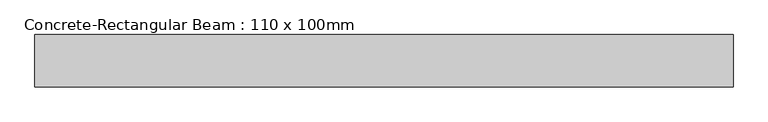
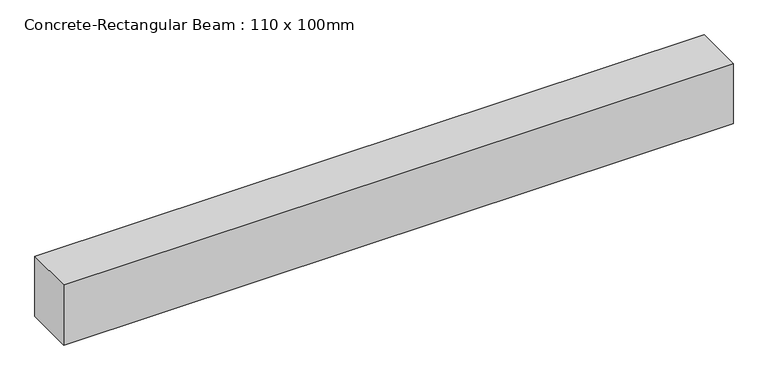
"""IFC4 building model written with IfcOpenShell, lengths in millimetres: beam geometry, Concrete-Rectangular Beam : 110 x 100mm."""

import ifcopenshell
import ifcopenshell.guid

model = None  # the IFC model being written
_history = None  # IfcOwnerHistory: only IFC2X3 demands one
_inside = {}  # id of a spatial element -> (the spatial element, [elements in it])
_under = {}  # id of a project, library or spatial element -> (it, [spatial elements below it])
_declared = {}  # id of a project -> (the project, [libraries it declares])
_typed = {}  # id of a type object -> (the type object, [elements of that type])
_made_of = {}  # id of a material, layer set ... -> (it, [elements and type objects made of it])


def new_model(schema):
    """Start an empty IFC model of exactly this schema.

    Asked for "IFC4X3", IfcOpenShell would pick the latest addendum, in which some entities
    have other attributes; the version numbers below select the first issue.
    IFC2X3 requires an IfcOwnerHistory on every rooted entity: one is made here for all.
    """
    global model, _history
    if schema == "IFC4X3":
        model = ifcopenshell.file(schema_version=(4, 3, 0, 0))
    else:
        model = ifcopenshell.file(schema=schema)
    _inside.clear()
    _under.clear()
    _declared.clear()
    _typed.clear()
    _made_of.clear()
    _history = None
    if model.schema == "IFC2X3":
        org = make("IfcOrganization", Name="unknown")
        user = make(
            "IfcPersonAndOrganization",
            ThePerson=make("IfcPerson", FamilyName="unknown"),
            TheOrganization=org,
        )
        app = make(
            "IfcApplication",
            ApplicationDeveloper=org,
            Version="unknown",
            ApplicationFullName="unknown",
            ApplicationIdentifier="unknown",
        )
        _history = make(
            "IfcOwnerHistory",
            OwningUser=user,
            OwningApplication=app,
            ChangeAction="ADDED",
            CreationDate=0,
        )
    return model


def make(cls, **values):
    """One entity of the class cls with the attributes given. An attribute that is None is left unset."""
    return model.create_entity(
        cls, **{name: value for name, value in values.items() if value is not None}
    )


def rooted(cls, **values):
    """An entity with a GlobalId (a new one), such as an element, a storey or a relation."""
    return make(cls, GlobalId=ifcopenshell.guid.new(), OwnerHistory=_history, **values)


def si_unit(unit_type, name, prefix=None):
    """IfcSIUnit, for example si_unit("LENGTHUNIT", "METRE", prefix="MILLI")."""
    return make("IfcSIUnit", UnitType=unit_type, Prefix=prefix, Name=name)


def assignment(units):
    """IfcUnitAssignment: the units of a project."""
    return None if units is None else make("IfcUnitAssignment", Units=units)


def point(xyz):
    """IfcCartesianPoint."""
    return None if xyz is None else make("IfcCartesianPoint", Coordinates=xyz)


def direction(xyz):
    """IfcDirection."""
    return None if xyz is None else make("IfcDirection", DirectionRatios=xyz)


def frame(location, z_axis=None, x_axis=None):
    """IfcAxis2Placement3D, a coordinate frame: its origin and axes. An axis left out is left unset."""
    return make(
        "IfcAxis2Placement3D",
        Location=point(location),
        Axis=direction(z_axis),
        RefDirection=direction(x_axis),
    )


def origin():
    """The frame at (0, 0, 0) with its axes left unset."""
    return frame((0.0, 0.0, 0.0))


def place(relative_to, where):
    """IfcLocalPlacement: puts the frame where relative to a parent placement (None: the world)."""
    return make(
        "IfcLocalPlacement", PlacementRelTo=relative_to, RelativePlacement=where
    )


def context(
    kind, dimensions, precision=None, world=None, true_north=None, identifier=None
):
    """IfcGeometricRepresentationContext, for example the 3D "Model" context."""
    return make(
        "IfcGeometricRepresentationContext",
        ContextIdentifier=identifier,
        ContextType=kind,
        CoordinateSpaceDimension=dimensions,
        Precision=precision,
        WorldCoordinateSystem=world,
        TrueNorth=true_north,
    )


def project(units=None, contexts=None):
    """IfcProject with its units and contexts."""
    return rooted(
        "IfcProject",
        Name="project",
        RepresentationContexts=contexts,
        UnitsInContext=assignment(units),
    )


def spatial(cls, under=None, at=None, **own):
    """A site, building, storey or space (cls), placed at a placement, below another one or the project."""
    s = rooted(cls, ObjectPlacement=at, **own)
    if under is not None:
        _under.setdefault(under.id(), (under, []))[1].append(s)
    return s


def polyline(points):
    """IfcPolyline through the points."""
    return make("IfcPolyline", Points=[point(p) for p in points])


def outline(outer, holes=None, kind="AREA"):
    """IfcArbitraryClosedProfileDef: a profile drawn as a closed curve; with holes, ...WithVoids."""
    if holes is None:
        return make("IfcArbitraryClosedProfileDef", ProfileType=kind, OuterCurve=outer)
    return make(
        "IfcArbitraryProfileDefWithVoids",
        ProfileType=kind,
        OuterCurve=outer,
        InnerCurves=holes,
    )


def extrude(swept, where, along, depth):
    """IfcExtrudedAreaSolid: the profile swept, set in the frame where, extruded along a direction by depth."""
    return make(
        "IfcExtrudedAreaSolid",
        SweptArea=swept,
        Position=where,
        ExtrudedDirection=direction(along),
        Depth=depth,
    )


def shape(context_of_items, identifier, shape_type, items):
    """IfcShapeRepresentation: the items that make up one representation, for example the "Body"."""
    return make(
        "IfcShapeRepresentation",
        ContextOfItems=context_of_items,
        RepresentationIdentifier=identifier,
        RepresentationType=shape_type,
        Items=items,
    )


def source(mapping_origin, context_of_items, identifier, shape_type, items):
    """IfcRepresentationMap: a shape defined once, which mapped items show again and again."""
    return make(
        "IfcRepresentationMap",
        MappingOrigin=mapping_origin,
        MappedRepresentation=shape(context_of_items, identifier, shape_type, items),
    )


def transform(
    local_origin,
    x_axis=None,
    y_axis=None,
    z_axis=None,
    scale=None,
    scale2=None,
    scale3=None,
    uniform=True,
):
    """IfcCartesianTransformationOperator3D, or its non-uniform kind. x_axis, y_axis, z_axis: its Axis1, 2, 3."""
    if uniform:
        return make(
            "IfcCartesianTransformationOperator3D",
            Axis1=direction(x_axis),
            Axis2=direction(y_axis),
            LocalOrigin=point(local_origin),
            Scale=scale,
            Axis3=direction(z_axis),
        )
    return make(
        "IfcCartesianTransformationOperator3DnonUniform",
        Axis1=direction(x_axis),
        Axis2=direction(y_axis),
        LocalOrigin=point(local_origin),
        Scale=scale,
        Axis3=direction(z_axis),
        Scale2=scale2,
        Scale3=scale3,
    )


def mapped(mapping_source, mapping_target):
    """IfcMappedItem: shows the shape of a source again, moved by a transform."""
    return make(
        "IfcMappedItem", MappingSource=mapping_source, MappingTarget=mapping_target
    )


def made_of(thing, what):
    """Note that an element or type object is made of a material, layer set ...; save() writes the relation."""
    if what is not None:
        _made_of.setdefault(what.id(), (what, []))[1].append(thing)
    return thing


def element(
    cls,
    number,
    at=None,
    inside=None,
    cuts=None,
    type_object=None,
    material=None,
    context=None,
    identifier="Body",
    shape_type=None,
    held_by="IfcProductDefinitionShape",
    body=None,
    shapes=None,
    **own,
):
    """One element of the class cls, such as IfcWall. Its Tag is "e" and its number.

    at: its placement. inside: the storey or other place that contains it. cuts: it is an
    opening in that element (IfcRelVoidsElement). A single representation is given by context,
    identifier, shape_type and body (its items); several are given by shapes. held_by: the class
    of the entity that holds the representations. save() writes the other relations.
    """
    e = rooted(cls, Tag="e%d" % number, ObjectPlacement=at, **own)
    if body is not None:
        shapes = [shape(context, identifier, shape_type, body)]
    if shapes is not None:
        e.Representation = make(held_by, Representations=shapes)
    if inside is not None:
        _inside.setdefault(inside.id(), (inside, []))[1].append(e)
    if cuts is not None:
        rooted(
            "IfcRelVoidsElement", RelatingBuildingElement=cuts, RelatedOpeningElement=e
        )
    if type_object is not None:
        _typed.setdefault(type_object.id(), (type_object, []))[1].append(e)
    return made_of(e, material)


def aggregate(whole, parts):
    """IfcRelAggregates: a whole, such as a stair, and the parts it consists of."""
    return rooted("IfcRelAggregates", RelatingObject=whole, RelatedObjects=parts)


def save(model, path):
    """Write the relations noted so far, then the file.

    IfcRelAggregates (storeys below a building ...), IfcRelContainedInSpatialStructure (elements
    in a storey), IfcRelDefinesByType, IfcRelAssociatesMaterial and IfcRelDeclares: one each for
    every whole, place, type object, material and project.
    """
    for whole, parts in _under.values():
        aggregate(whole, parts)
    for where, things in _inside.values():
        rooted(
            "IfcRelContainedInSpatialStructure",
            RelatedElements=things,
            RelatingStructure=where,
        )
    for kind, things in _typed.values():
        rooted("IfcRelDefinesByType", RelatedObjects=things, RelatingType=kind)
    for what, things in _made_of.values():
        rooted("IfcRelAssociatesMaterial", RelatedObjects=things, RelatingMaterial=what)
    for by, libraries in _declared.values():
        rooted("IfcRelDeclares", RelatingContext=by, RelatedDefinitions=libraries)
    model.write(path)


def concrete_rectangular_beam_110_x_100mm_283fb27f(model_context):
    return source(origin(), model_context, "Body", "SweptSolid", [
        extrude(outline(polyline([(735.0, 55.0), (735.0, -55.0), (-735.0, -55.0), (-735.0, 55.0), (735.0, 55.0)])), frame((0.0, 0.0, -70.0), z_axis=(0.0, 0.0, 1.0), x_axis=(1.0, 0.0, 0.0)), (0.0, 0.0, 1.0), 140.0),
    ])


if __name__ == "__main__":
    model = new_model("IFC4")
    model_context = context("Model", 3, world=origin())
    ifc_project = project(units=[si_unit("LENGTHUNIT", "METRE", prefix="MILLI")], contexts=[model_context])
    site = spatial("IfcSite", under=ifc_project)
    building = spatial("IfcBuilding", under=site)
    placement = place(None, origin())
    concrete_rectangular_beam_110_x_100mm_shape = concrete_rectangular_beam_110_x_100mm_283fb27f(model_context)
    element("IfcBeam", 1, ObjectType="Concrete-Rectangular Beam : 110 x 100mm", at=placement, inside=building, context=model_context, shape_type="MappedRepresentation", body=[
        mapped(concrete_rectangular_beam_110_x_100mm_shape, transform((0.0, 0.0, 0.0), x_axis=(1.0, 0.0, 0.0), y_axis=(0.0, 1.0, 0.0), z_axis=(0.0, 0.0, 1.0))),
    ])
    save(model, "model.ifc")
